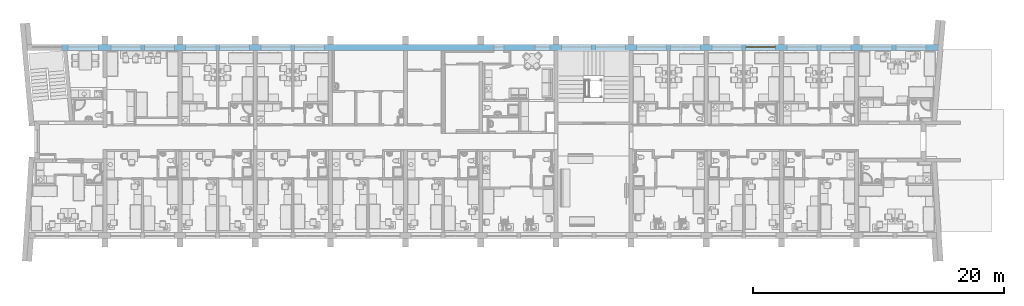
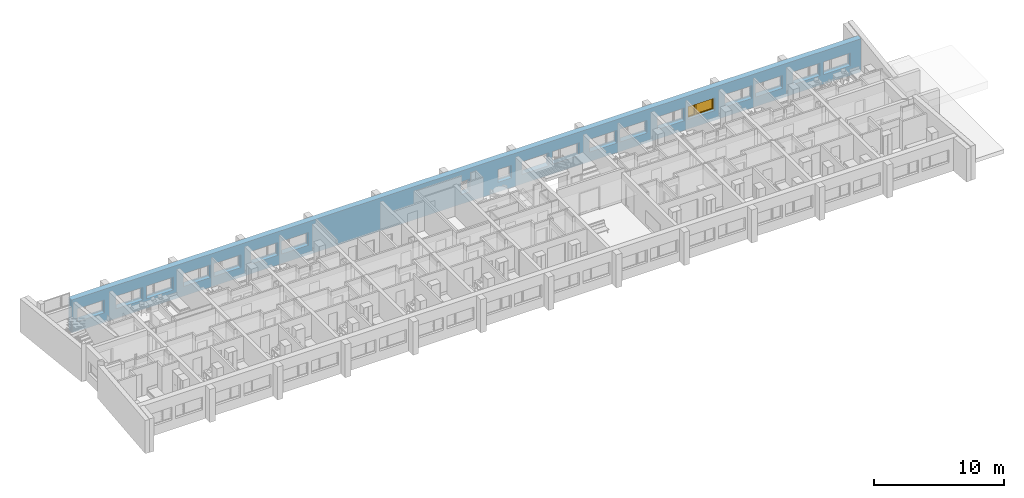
# One storey, part 27 of 172: 1 window, 19 openings, plus 1 element that does not belong to this part.
"""IFC2X3 building model written with IfcOpenShell, lengths in millimetres."""

import ifcopenshell
import ifcopenshell.guid

model = None  # the IFC model being written
_history = None  # IfcOwnerHistory: only IFC2X3 demands one
_inside = {}  # id of a spatial element -> (the spatial element, [elements in it])
_under = {}  # id of a project, library or spatial element -> (it, [spatial elements below it])
_declared = {}  # id of a project -> (the project, [libraries it declares])
_typed = {}  # id of a type object -> (the type object, [elements of that type])
_made_of = {}  # id of a material, layer set ... -> (it, [elements and type objects made of it])


def new_model(schema):
    """Start an empty IFC model of exactly this schema.

    Asked for "IFC4X3", IfcOpenShell would pick the latest addendum, in which some entities
    have other attributes; the version numbers below select the first issue.
    IFC2X3 requires an IfcOwnerHistory on every rooted entity: one is made here for all.
    """
    global model, _history
    if schema == "IFC4X3":
        model = ifcopenshell.file(schema_version=(4, 3, 0, 0))
    else:
        model = ifcopenshell.file(schema=schema)
    _inside.clear()
    _under.clear()
    _declared.clear()
    _typed.clear()
    _made_of.clear()
    _history = None
    if model.schema == "IFC2X3":
        org = make("IfcOrganization", Name="unknown")
        user = make(
            "IfcPersonAndOrganization",
            ThePerson=make("IfcPerson", FamilyName="unknown"),
            TheOrganization=org,
        )
        app = make(
            "IfcApplication",
            ApplicationDeveloper=org,
            Version="unknown",
            ApplicationFullName="unknown",
            ApplicationIdentifier="unknown",
        )
        _history = make(
            "IfcOwnerHistory",
            OwningUser=user,
            OwningApplication=app,
            ChangeAction="ADDED",
            CreationDate=0,
        )
    return model


def make(cls, **values):
    """One entity of the class cls with the attributes given. An attribute that is None is left unset."""
    return model.create_entity(
        cls, **{name: value for name, value in values.items() if value is not None}
    )


def entity(cls, *values):
    """Any entity or typed value of the class cls, its attributes in the order of the schema. None: left unset."""
    e = model.create_entity(cls)
    for i, value in enumerate(values):
        if value is not None:
            e[i] = value
    return e


def rooted(cls, **values):
    """An entity with a GlobalId (a new one), such as an element, a storey or a relation."""
    return make(cls, GlobalId=ifcopenshell.guid.new(), OwnerHistory=_history, **values)


def si_unit(unit_type, name, prefix=None):
    """IfcSIUnit, for example si_unit("LENGTHUNIT", "METRE", prefix="MILLI")."""
    return make("IfcSIUnit", UnitType=unit_type, Prefix=prefix, Name=name)


def converted_unit(unit_type, name, factor, base, dimensions=None, offset=None):
    """IfcConversionBasedUnit, such as the inch: factor (a typed value) times the base unit."""
    return make(
        "IfcConversionBasedUnit"
        if offset is None
        else "IfcConversionBasedUnitWithOffset",
        ConversionOffset=offset,
        Dimensions=None
        if dimensions is None
        else entity("IfcDimensionalExponents", *dimensions),
        UnitType=unit_type,
        Name=name,
        ConversionFactor=make(
            "IfcMeasureWithUnit", ValueComponent=factor, UnitComponent=base
        ),
    )


def money_unit(currency):
    """IfcMonetaryUnit."""
    return make("IfcMonetaryUnit", Currency=currency)


def assignment(units):
    """IfcUnitAssignment: the units of a project."""
    return None if units is None else make("IfcUnitAssignment", Units=units)


def point(xyz):
    """IfcCartesianPoint."""
    return None if xyz is None else make("IfcCartesianPoint", Coordinates=xyz)


def direction(xyz):
    """IfcDirection."""
    return None if xyz is None else make("IfcDirection", DirectionRatios=xyz)


def frame(location, z_axis=None, x_axis=None):
    """IfcAxis2Placement3D, a coordinate frame: its origin and axes. An axis left out is left unset."""
    return make(
        "IfcAxis2Placement3D",
        Location=point(location),
        Axis=direction(z_axis),
        RefDirection=direction(x_axis),
    )


def origin_with_axes():
    """The frame at (0, 0, 0) with the z axis (0, 0, 1) and the x axis (1, 0, 0) written out."""
    return frame((0.0, 0.0, 0.0), z_axis=(0.0, 0.0, 1.0), x_axis=(1.0, 0.0, 0.0))


def place(relative_to, where):
    """IfcLocalPlacement: puts the frame where relative to a parent placement (None: the world)."""
    return make(
        "IfcLocalPlacement", PlacementRelTo=relative_to, RelativePlacement=where
    )


def context(
    kind, dimensions, precision=None, world=None, true_north=None, identifier=None
):
    """IfcGeometricRepresentationContext, for example the 3D "Model" context."""
    return make(
        "IfcGeometricRepresentationContext",
        ContextIdentifier=identifier,
        ContextType=kind,
        CoordinateSpaceDimension=dimensions,
        Precision=precision,
        WorldCoordinateSystem=world,
        TrueNorth=true_north,
    )


def subcontext(parent, identifier, kind, view, scale=None):
    """IfcGeometricRepresentationSubContext, for example "Body" below "Model"."""
    return make(
        "IfcGeometricRepresentationSubContext",
        ContextIdentifier=identifier,
        ContextType=kind,
        ParentContext=parent,
        TargetScale=scale,
        TargetView=view,
    )


def project(units=None, contexts=None):
    """IfcProject with its units and contexts."""
    return rooted(
        "IfcProject",
        Name="project",
        RepresentationContexts=contexts,
        UnitsInContext=assignment(units),
    )


def spatial(cls, under=None, at=None, **own):
    """A site, building, storey or space (cls), placed at a placement, below another one or the project."""
    s = rooted(cls, ObjectPlacement=at, **own)
    if under is not None:
        _under.setdefault(under.id(), (under, []))[1].append(s)
    return s


def polyline(points):
    """IfcPolyline through the points."""
    return make("IfcPolyline", Points=[point(p) for p in points])


def outline(outer, holes=None, kind="AREA"):
    """IfcArbitraryClosedProfileDef: a profile drawn as a closed curve; with holes, ...WithVoids."""
    if holes is None:
        return make("IfcArbitraryClosedProfileDef", ProfileType=kind, OuterCurve=outer)
    return make(
        "IfcArbitraryProfileDefWithVoids",
        ProfileType=kind,
        OuterCurve=outer,
        InnerCurves=holes,
    )


def extrude(swept, where, along, depth):
    """IfcExtrudedAreaSolid: the profile swept, set in the frame where, extruded along a direction by depth."""
    return make(
        "IfcExtrudedAreaSolid",
        SweptArea=swept,
        Position=where,
        ExtrudedDirection=direction(along),
        Depth=depth,
    )


def faces_of(points, faces, orient=None, outer=None):
    """IfcFace entities. A face is a list of loops; a loop is a list of indices into points, from 0.

    orient and outer hold one flag for each loop. By default every Orientation is true, the
    first loop of a face is its IfcFaceOuterBound and the others are IfcFaceBound.
    """
    made = []
    for i, loops in enumerate(faces):
        bounds = []
        for j, loop in enumerate(loops):
            is_outer = j == 0 if outer is None else outer[i][j]
            bounds.append(
                make(
                    "IfcFaceOuterBound" if is_outer else "IfcFaceBound",
                    Bound=make("IfcPolyLoop", Polygon=[points[k] for k in loop]),
                    Orientation=True if orient is None else orient[i][j],
                )
            )
        made.append(make("IfcFace", Bounds=bounds))
    return made


def open_shell(faces, orient=None, outer=None):
    """The faces of one IfcOpenShell. surface_model builds it on its shared points."""
    return ("IfcOpenShell", faces, orient, outer)


def faceted_brep(points, faces, orient=None, outer=None, voids=None):
    """IfcFacetedBrep: a solid bounded by flat faces; with voids (closed shells), ...WithVoids."""
    shared = [point(p) for p in points]
    hull = make("IfcClosedShell", CfsFaces=faces_of(shared, faces, orient, outer))
    if voids is None:
        return make("IfcFacetedBrep", Outer=hull)
    return make(
        "IfcFacetedBrepWithVoids",
        Outer=hull,
        Voids=[
            make(cls, CfsFaces=faces_of(shared, fs, o, b)) for cls, fs, o, b in voids
        ],
    )


def surface_model(cls, points, shells):
    """IfcFaceBasedSurfaceModel or IfcShellBasedSurfaceModel (cls): surfaces that need not close."""
    shared = [point(p) for p in points]
    made = [make(c, CfsFaces=faces_of(shared, fs, o, b)) for c, fs, o, b in shells]
    if cls == "IfcFaceBasedSurfaceModel":
        return make(cls, FbsmFaces=made)
    return make(cls, SbsmBoundary=made)


def shape(context_of_items, identifier, shape_type, items):
    """IfcShapeRepresentation: the items that make up one representation, for example the "Body"."""
    return make(
        "IfcShapeRepresentation",
        ContextOfItems=context_of_items,
        RepresentationIdentifier=identifier,
        RepresentationType=shape_type,
        Items=items,
    )


def source(mapping_origin, context_of_items, identifier, shape_type, items):
    """IfcRepresentationMap: a shape defined once, which mapped items show again and again."""
    return make(
        "IfcRepresentationMap",
        MappingOrigin=mapping_origin,
        MappedRepresentation=shape(context_of_items, identifier, shape_type, items),
    )


def transform(
    local_origin,
    x_axis=None,
    y_axis=None,
    z_axis=None,
    scale=None,
    scale2=None,
    scale3=None,
    uniform=True,
):
    """IfcCartesianTransformationOperator3D, or its non-uniform kind. x_axis, y_axis, z_axis: its Axis1, 2, 3."""
    if uniform:
        return make(
            "IfcCartesianTransformationOperator3D",
            Axis1=direction(x_axis),
            Axis2=direction(y_axis),
            LocalOrigin=point(local_origin),
            Scale=scale,
            Axis3=direction(z_axis),
        )
    return make(
        "IfcCartesianTransformationOperator3DnonUniform",
        Axis1=direction(x_axis),
        Axis2=direction(y_axis),
        LocalOrigin=point(local_origin),
        Scale=scale,
        Axis3=direction(z_axis),
        Scale2=scale2,
        Scale3=scale3,
    )


def mapped(mapping_source, mapping_target):
    """IfcMappedItem: shows the shape of a source again, moved by a transform."""
    return make(
        "IfcMappedItem", MappingSource=mapping_source, MappingTarget=mapping_target
    )


def material(Name=None, Category=None):
    """IfcMaterial."""
    return make("IfcMaterial", Name=Name, Category=Category)


def material_list(materials):
    """IfcMaterialList."""
    return make("IfcMaterialList", Materials=materials)


def layer(
    of_material, thickness, ventilated=None, Name=None, Category=None, Priority=None
):
    """IfcMaterialLayer: one layer of a wall or slab, of a material (None: an air gap)."""
    return make(
        "IfcMaterialLayer",
        Material=of_material,
        LayerThickness=thickness,
        IsVentilated=ventilated,
        Name=Name,
        Category=Category,
        Priority=Priority,
    )


def layer_set(layers, Name=None):
    """IfcMaterialLayerSet."""
    return make("IfcMaterialLayerSet", MaterialLayers=layers, LayerSetName=Name)


def layer_usage(for_layer_set, set_direction, sense, offset, extent=None):
    """IfcMaterialLayerSetUsage: how a layer set lies in its element."""
    return make(
        "IfcMaterialLayerSetUsage",
        ForLayerSet=for_layer_set,
        LayerSetDirection=set_direction,
        DirectionSense=sense,
        OffsetFromReferenceLine=offset,
        ReferenceExtent=extent,
    )


def made_of(thing, what):
    """Note that an element or type object is made of a material, layer set ...; save() writes the relation."""
    if what is not None:
        _made_of.setdefault(what.id(), (what, []))[1].append(thing)
    return thing


def type_object(cls, material=None, **own):
    """A type object (cls), such as IfcWallType, which elements share."""
    return made_of(rooted(cls, **own), material)


def element(
    cls,
    number,
    at=None,
    inside=None,
    cuts=None,
    type_object=None,
    material=None,
    context=None,
    identifier="Body",
    shape_type=None,
    held_by="IfcProductDefinitionShape",
    body=None,
    shapes=None,
    **own,
):
    """One element of the class cls, such as IfcWall. Its Tag is "e" and its number.

    at: its placement. inside: the storey or other place that contains it. cuts: it is an
    opening in that element (IfcRelVoidsElement). A single representation is given by context,
    identifier, shape_type and body (its items); several are given by shapes. held_by: the class
    of the entity that holds the representations. save() writes the other relations.
    """
    e = rooted(cls, Tag="e%d" % number, ObjectPlacement=at, **own)
    if body is not None:
        shapes = [shape(context, identifier, shape_type, body)]
    if shapes is not None:
        e.Representation = make(held_by, Representations=shapes)
    if inside is not None:
        _inside.setdefault(inside.id(), (inside, []))[1].append(e)
    if cuts is not None:
        rooted(
            "IfcRelVoidsElement", RelatingBuildingElement=cuts, RelatedOpeningElement=e
        )
    if type_object is not None:
        _typed.setdefault(type_object.id(), (type_object, []))[1].append(e)
    return made_of(e, material)


def fill(opening, filler):
    """IfcRelFillsElement: the door or window that sits in an opening."""
    return rooted(
        "IfcRelFillsElement",
        RelatingOpeningElement=opening,
        RelatedBuildingElement=filler,
    )


def aggregate(whole, parts):
    """IfcRelAggregates: a whole, such as a stair, and the parts it consists of."""
    return rooted("IfcRelAggregates", RelatingObject=whole, RelatedObjects=parts)


def save(model, path):
    """Write the relations noted so far, then the file.

    IfcRelAggregates (storeys below a building ...), IfcRelContainedInSpatialStructure (elements
    in a storey), IfcRelDefinesByType, IfcRelAssociatesMaterial and IfcRelDeclares: one each for
    every whole, place, type object, material and project.
    """
    for whole, parts in _under.values():
        aggregate(whole, parts)
    for where, things in _inside.values():
        rooted(
            "IfcRelContainedInSpatialStructure",
            RelatedElements=things,
            RelatingStructure=where,
        )
    for kind, things in _typed.values():
        rooted("IfcRelDefinesByType", RelatedObjects=things, RelatingType=kind)
    for what, things in _made_of.values():
        rooted("IfcRelAssociatesMaterial", RelatedObjects=things, RelatingMaterial=what)
    for by, libraries in _declared.values():
        rooted("IfcRelDeclares", RelatingContext=by, RelatedDefinitions=libraries)
    model.write(path)


model = new_model("IFC2X3")

# Units and contexts
model_context = context("Model", 3, precision=1e-05, world=origin_with_axes(), true_north=direction((0.0, 1.0)))
body_context = subcontext(model_context, "Body", "Model", "MODEL_VIEW")
ifc_project = project(units=[si_unit("LENGTHUNIT", "METRE", prefix="MILLI"), si_unit("AREAUNIT", "SQUARE_METRE"), si_unit("VOLUMEUNIT", "CUBIC_METRE"), converted_unit("PLANEANGLEUNIT", "DEGREE", entity("IfcPlaneAngleMeasure", 0.0174532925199), si_unit("PLANEANGLEUNIT", "RADIAN"), dimensions=[0, 0, 0, 0, 0, 0, 0]), si_unit("SOLIDANGLEUNIT", "STERADIAN"), money_unit("USD"), converted_unit("TIMEUNIT", "Year", entity("IfcTimeMeasure", 31556926.0), si_unit("TIMEUNIT", "SECOND"), dimensions=[0, 0, 0, 0, 0, 0, 0]), si_unit("MASSUNIT", "GRAM"), si_unit("THERMODYNAMICTEMPERATUREUNIT", "DEGREE_CELSIUS"), si_unit("LUMINOUSINTENSITYUNIT", "LUMEN")], contexts=[model_context])

# Site, building, storey
site_placement = place(None, origin_with_axes())
site = spatial("IfcSite", under=ifc_project, at=site_placement, Name="Site", CompositionType="ELEMENT")
building_placement = place(site_placement, origin_with_axes())
building = spatial("IfcBuilding", under=site, at=building_placement, Name="Building", CompositionType="ELEMENT")
storey_placement = place(building_placement, frame((0.0, 0.0, 3200.0), z_axis=(0.0, 0.0, 1.0), x_axis=(1.0, 0.0, 0.0)))
storey = spatial("IfcBuildingStorey", under=building, at=storey_placement, Name="3KORRUS", CompositionType="ELEMENT", Elevation=3200.0)

# Wall, openings, window
ifc_material_1 = material(Name="Olemasolevad seinad tellis, uus viimistlus")
ifc_layer = layer(ifc_material_1, 500.0, ventilated="UNKNOWN")
ifc_layer_set = layer_set([ifc_layer], Name="Olemasolevad seinad tellis, uus viimistlus 500")
ifc_layer_usage = layer_usage(ifc_layer_set, "AXIS2", "POSITIVE", -100.0)
wall_type = type_object("IfcWallType", Name="Olemasolevad seinad tellis, uus viimistlus 500", PredefinedType="NOTDEFINED")
wall_placement = place(storey_placement, frame((-51569.3388124, -5039.6041088, 0.0), z_axis=(0.0, 0.0, 1.0), x_axis=(1.0, 0.0, 0.0)))
wall = element("IfcWallStandardCase", 1, at=wall_placement, inside=storey, type_object=wall_type, material=ifc_layer_usage, Name="VS1", ObjectType="VS1", context=body_context, shape_type="SweptSolid", body=[
    extrude(outline(polyline([(0.0, -100.0), (69914.7195482, -100.0), (69959.6995146, 400.0), (0.0, 400.0), (0.0, -100.0)])), origin_with_axes(), (0.0, 0.0, 1.0), 3100.0),
])
opening_1_placement = place(wall_placement, frame((34879.0421091, 0.0, 900.0), z_axis=(0.0, 0.0, 1.0), x_axis=(1.0, 0.0, 0.0)))
element("IfcOpeningElement", 2, at=opening_1_placement, cuts=wall, Name="WD - 001", context=body_context, shape_type="SweptSolid", body=[
    extrude(outline(polyline([(-400.0, 1200.0), (-400.0, 0.0), (400.0, 0.0), (400.0, 1200.0), (-400.0, 1200.0)])), frame((0.0, 200.0, 0.0), z_axis=(0.0, -1.0, 0.0), x_axis=(1.0, 0.0, 0.0)), (0.0, 0.0, 1.0), 800.0),
    extrude(outline(polyline([(-400.0, 0.0), (-400.0, -1200.0), (400.0, -1200.0), (400.0, 0.0), (-400.0, 0.0)])), frame((0.0, 200.0, 0.0), z_axis=(0.0, 1.0, 0.0), x_axis=(1.0, 0.0, 0.0)), (0.0, 0.0, 1.0), 700.0),
])
opening_2_placement = place(wall_placement, frame((38352.6323068, 0.0, 900.0), z_axis=(0.0, 0.0, 1.0), x_axis=(1.0, 0.0, 0.0)))
element("IfcOpeningElement", 3, at=opening_2_placement, cuts=wall, Name="A3", context=body_context, shape_type="SweptSolid", body=[
    extrude(outline(polyline([(-600.0, 1200.0), (-600.0, 0.0), (600.0, 0.0), (600.0, 1200.0), (-600.0, 1200.0)])), frame((0.0, 200.0, 0.0), z_axis=(0.0, -1.0, 0.0), x_axis=(1.0, 0.0, 0.0)), (0.0, 0.0, 1.0), 800.0),
    extrude(outline(polyline([(-600.0, 0.0), (-600.0, -1200.0), (600.0, -1200.0), (600.0, 0.0), (-600.0, 0.0)])), frame((0.0, 200.0, 0.0), z_axis=(0.0, 1.0, 0.0), x_axis=(1.0, 0.0, 0.0)), (0.0, 0.0, 1.0), 700.0),
])
opening_3_placement = place(wall_placement, frame((1700.0, 0.0, 900.0), z_axis=(0.0, 0.0, 1.0), x_axis=(1.0, 0.0, 0.0)))
element("IfcOpeningElement", 4, at=opening_3_placement, cuts=wall, Name="A1", context=body_context, shape_type="SweptSolid", body=[
    extrude(outline(polyline([(1200.0, 1200.0), (-1200.0, 1200.0), (-1200.0, 0.0), (1200.0, 0.0), (1200.0, 1200.0)])), frame((0.0, 200.0, 0.0), z_axis=(0.0, -1.0, 0.0), x_axis=(1.0, 0.0, 0.0)), (0.0, 0.0, 1.0), 800.0),
    extrude(outline(polyline([(1200.0, 0.0), (-1200.0, 0.0), (-1200.0, -1200.0), (1200.0, -1200.0), (1200.0, 0.0)])), frame((0.0, 200.0, 0.0), z_axis=(0.0, 1.0, 0.0), x_axis=(1.0, 0.0, 0.0)), (0.0, 0.0, 1.0), 700.0),
])
opening_4_placement = place(wall_placement, frame((7795.91085613, 0.0, 900.0), z_axis=(0.0, 0.0, 1.0), x_axis=(1.0, 0.0, 0.0)))
element("IfcOpeningElement", 5, at=opening_4_placement, cuts=wall, Name="A1", context=body_context, shape_type="SweptSolid", body=[
    extrude(outline(polyline([(1200.0, 1200.0), (-1200.0, 1200.0), (-1200.0, 0.0), (1200.0, 0.0), (1200.0, 1200.0)])), frame((0.0, 200.0, 0.0), z_axis=(0.0, -1.0, 0.0), x_axis=(1.0, 0.0, 0.0)), (0.0, 0.0, 1.0), 800.0),
    extrude(outline(polyline([(1200.0, 0.0), (-1200.0, 0.0), (-1200.0, -1200.0), (1200.0, -1200.0), (1200.0, 0.0)])), frame((0.0, 200.0, 0.0), z_axis=(0.0, 1.0, 0.0), x_axis=(1.0, 0.0, 0.0)), (0.0, 0.0, 1.0), 700.0),
])
opening_5_placement = place(wall_placement, frame((5095.91085613, 0.0, 900.0), z_axis=(0.0, 0.0, 1.0), x_axis=(1.0, 0.0, 0.0)))
element("IfcOpeningElement", 6, at=opening_5_placement, cuts=wall, Name="A2", context=body_context, shape_type="SweptSolid", body=[
    extrude(outline(polyline([(-1200.0, 1200.0), (-1200.0, 0.0), (1200.0, 0.0), (1200.0, 1200.0), (-1200.0, 1200.0)])), frame((0.0, 200.0, 0.0), z_axis=(0.0, -1.0, 0.0), x_axis=(1.0, 0.0, 0.0)), (0.0, 0.0, 1.0), 800.0),
    extrude(outline(polyline([(-1200.0, 0.0), (-1200.0, -1200.0), (1200.0, -1200.0), (1200.0, 0.0), (-1200.0, 0.0)])), frame((0.0, 200.0, 0.0), z_axis=(0.0, 1.0, 0.0), x_axis=(1.0, 0.0, 0.0)), (0.0, 0.0, 1.0), 700.0),
])
opening_6_placement = place(wall_placement, frame((13779.0421091, 0.0, 900.0), z_axis=(0.0, 0.0, 1.0), x_axis=(1.0, 0.0, 0.0)))
element("IfcOpeningElement", 7, at=opening_6_placement, cuts=wall, Name="A1", context=body_context, shape_type="SweptSolid", body=[
    extrude(outline(polyline([(1200.0, 1200.0), (-1200.0, 1200.0), (-1200.0, 0.0), (1200.0, 0.0), (1200.0, 1200.0)])), frame((0.0, 200.0, 0.0), z_axis=(0.0, -1.0, 0.0), x_axis=(1.0, 0.0, 0.0)), (0.0, 0.0, 1.0), 800.0),
    extrude(outline(polyline([(1200.0, 0.0), (-1200.0, 0.0), (-1200.0, -1200.0), (1200.0, -1200.0), (1200.0, 0.0)])), frame((0.0, 200.0, 0.0), z_axis=(0.0, 1.0, 0.0), x_axis=(1.0, 0.0, 0.0)), (0.0, 0.0, 1.0), 700.0),
])
opening_7_placement = place(wall_placement, frame((11079.0421091, 0.0, 900.0), z_axis=(0.0, 0.0, 1.0), x_axis=(1.0, 0.0, 0.0)))
element("IfcOpeningElement", 8, at=opening_7_placement, cuts=wall, Name="A2", context=body_context, shape_type="SweptSolid", body=[
    extrude(outline(polyline([(-1200.0, 1200.0), (-1200.0, 0.0), (1200.0, 0.0), (1200.0, 1200.0), (-1200.0, 1200.0)])), frame((0.0, 200.0, 0.0), z_axis=(0.0, -1.0, 0.0), x_axis=(1.0, 0.0, 0.0)), (0.0, 0.0, 1.0), 800.0),
    extrude(outline(polyline([(-1200.0, 0.0), (-1200.0, -1200.0), (1200.0, -1200.0), (1200.0, 0.0), (-1200.0, 0.0)])), frame((0.0, 200.0, 0.0), z_axis=(0.0, 1.0, 0.0), x_axis=(1.0, 0.0, 0.0)), (0.0, 0.0, 1.0), 700.0),
])
opening_8_placement = place(wall_placement, frame((43769.0421091, 0.0, 900.0), z_axis=(0.0, 0.0, 1.0), x_axis=(1.0, 0.0, 0.0)))
element("IfcOpeningElement", 9, at=opening_8_placement, cuts=wall, Name="A1", context=body_context, shape_type="SweptSolid", body=[
    extrude(outline(polyline([(1200.0, 1200.0), (-1200.0, 1200.0), (-1200.0, 0.0), (1200.0, 0.0), (1200.0, 1200.0)])), frame((0.0, 200.0, 0.0), z_axis=(0.0, -1.0, 0.0), x_axis=(1.0, 0.0, 0.0)), (0.0, 0.0, 1.0), 800.0),
    extrude(outline(polyline([(1200.0, 0.0), (-1200.0, 0.0), (-1200.0, -1200.0), (1200.0, -1200.0), (1200.0, 0.0)])), frame((0.0, 200.0, 0.0), z_axis=(0.0, 1.0, 0.0), x_axis=(1.0, 0.0, 0.0)), (0.0, 0.0, 1.0), 700.0),
])
opening_9_placement = place(wall_placement, frame((41069.0421091, 0.0, 900.0), z_axis=(0.0, 0.0, 1.0), x_axis=(1.0, 0.0, 0.0)))
element("IfcOpeningElement", 10, at=opening_9_placement, cuts=wall, Name="A2", context=body_context, shape_type="SweptSolid", body=[
    extrude(outline(polyline([(-1200.0, 1200.0), (-1200.0, 0.0), (1200.0, 0.0), (1200.0, 1200.0), (-1200.0, 1200.0)])), frame((0.0, 200.0, 0.0), z_axis=(0.0, -1.0, 0.0), x_axis=(1.0, 0.0, 0.0)), (0.0, 0.0, 1.0), 800.0),
    extrude(outline(polyline([(-1200.0, 0.0), (-1200.0, -1200.0), (1200.0, -1200.0), (1200.0, 0.0), (-1200.0, 0.0)])), frame((0.0, 200.0, 0.0), z_axis=(0.0, 1.0, 0.0), x_axis=(1.0, 0.0, 0.0)), (0.0, 0.0, 1.0), 700.0),
])
opening_10_placement = place(wall_placement, frame((49769.0421091, 0.0, 900.0), z_axis=(0.0, 0.0, 1.0), x_axis=(1.0, 0.0, 0.0)))
element("IfcOpeningElement", 11, at=opening_10_placement, cuts=wall, Name="A1", context=body_context, shape_type="SweptSolid", body=[
    extrude(outline(polyline([(1200.0, 1200.0), (-1200.0, 1200.0), (-1200.0, 0.0), (1200.0, 0.0), (1200.0, 1200.0)])), frame((0.0, 200.0, 0.0), z_axis=(0.0, -1.0, 0.0), x_axis=(1.0, 0.0, 0.0)), (0.0, 0.0, 1.0), 800.0),
    extrude(outline(polyline([(1200.0, 0.0), (-1200.0, 0.0), (-1200.0, -1200.0), (1200.0, -1200.0), (1200.0, 0.0)])), frame((0.0, 200.0, 0.0), z_axis=(0.0, 1.0, 0.0), x_axis=(1.0, 0.0, 0.0)), (0.0, 0.0, 1.0), 700.0),
])
opening_11_placement = place(wall_placement, frame((47069.0421091, 0.0, 900.0), z_axis=(0.0, 0.0, 1.0), x_axis=(1.0, 0.0, 0.0)))
element("IfcOpeningElement", 12, at=opening_11_placement, cuts=wall, Name="A2", context=body_context, shape_type="SweptSolid", body=[
    extrude(outline(polyline([(-1200.0, 1200.0), (-1200.0, 0.0), (1200.0, 0.0), (1200.0, 1200.0), (-1200.0, 1200.0)])), frame((0.0, 200.0, 0.0), z_axis=(0.0, -1.0, 0.0), x_axis=(1.0, 0.0, 0.0)), (0.0, 0.0, 1.0), 800.0),
    extrude(outline(polyline([(-1200.0, 0.0), (-1200.0, -1200.0), (1200.0, -1200.0), (1200.0, 0.0), (-1200.0, 0.0)])), frame((0.0, 200.0, 0.0), z_axis=(0.0, 1.0, 0.0), x_axis=(1.0, 0.0, 0.0)), (0.0, 0.0, 1.0), 700.0),
])
opening_12_placement = place(wall_placement, frame((55769.0421091, 0.0, 900.0), z_axis=(0.0, 0.0, 1.0), x_axis=(1.0, 0.0, 0.0)))
opening_12 = element("IfcOpeningElement", 13, at=opening_12_placement, cuts=wall, Name="A1", context=body_context, shape_type="SweptSolid", body=[
    extrude(outline(polyline([(1200.0, 1200.0), (-1200.0, 1200.0), (-1200.0, 0.0), (1200.0, 0.0), (1200.0, 1200.0)])), frame((0.0, 200.0, 0.0), z_axis=(0.0, -1.0, 0.0), x_axis=(1.0, 0.0, 0.0)), (0.0, 0.0, 1.0), 800.0),
    extrude(outline(polyline([(1200.0, 0.0), (-1200.0, 0.0), (-1200.0, -1200.0), (1200.0, -1200.0), (1200.0, 0.0)])), frame((0.0, 200.0, 0.0), z_axis=(0.0, 1.0, 0.0), x_axis=(1.0, 0.0, 0.0)), (0.0, 0.0, 1.0), 700.0),
])
opening_13_placement = place(wall_placement, frame((53069.0421091, 0.0, 900.0), z_axis=(0.0, 0.0, 1.0), x_axis=(1.0, 0.0, 0.0)))
element("IfcOpeningElement", 14, at=opening_13_placement, cuts=wall, Name="A2", context=body_context, shape_type="SweptSolid", body=[
    extrude(outline(polyline([(-1200.0, 1200.0), (-1200.0, 0.0), (1200.0, 0.0), (1200.0, 1200.0), (-1200.0, 1200.0)])), frame((0.0, 200.0, 0.0), z_axis=(0.0, -1.0, 0.0), x_axis=(1.0, 0.0, 0.0)), (0.0, 0.0, 1.0), 800.0),
    extrude(outline(polyline([(-1200.0, 0.0), (-1200.0, -1200.0), (1200.0, -1200.0), (1200.0, 0.0), (-1200.0, 0.0)])), frame((0.0, 200.0, 0.0), z_axis=(0.0, 1.0, 0.0), x_axis=(1.0, 0.0, 0.0)), (0.0, 0.0, 1.0), 700.0),
])
opening_14_placement = place(wall_placement, frame((61769.0421091, 0.0, 900.0), z_axis=(0.0, 0.0, 1.0), x_axis=(1.0, 0.0, 0.0)))
element("IfcOpeningElement", 15, at=opening_14_placement, cuts=wall, Name="A1", context=body_context, shape_type="SweptSolid", body=[
    extrude(outline(polyline([(1200.0, 1200.0), (-1200.0, 1200.0), (-1200.0, 0.0), (1200.0, 0.0), (1200.0, 1200.0)])), frame((0.0, 200.0, 0.0), z_axis=(0.0, -1.0, 0.0), x_axis=(1.0, 0.0, 0.0)), (0.0, 0.0, 1.0), 800.0),
    extrude(outline(polyline([(1200.0, 0.0), (-1200.0, 0.0), (-1200.0, -1200.0), (1200.0, -1200.0), (1200.0, 0.0)])), frame((0.0, 200.0, 0.0), z_axis=(0.0, 1.0, 0.0), x_axis=(1.0, 0.0, 0.0)), (0.0, 0.0, 1.0), 700.0),
])
opening_15_placement = place(wall_placement, frame((59069.0421091, 0.0, 900.0), z_axis=(0.0, 0.0, 1.0), x_axis=(1.0, 0.0, 0.0)))
element("IfcOpeningElement", 16, at=opening_15_placement, cuts=wall, Name="A2", context=body_context, shape_type="SweptSolid", body=[
    extrude(outline(polyline([(-1200.0, 1200.0), (-1200.0, 0.0), (1200.0, 0.0), (1200.0, 1200.0), (-1200.0, 1200.0)])), frame((0.0, 200.0, 0.0), z_axis=(0.0, -1.0, 0.0), x_axis=(1.0, 0.0, 0.0)), (0.0, 0.0, 1.0), 800.0),
    extrude(outline(polyline([(-1200.0, 0.0), (-1200.0, -1200.0), (1200.0, -1200.0), (1200.0, 0.0), (-1200.0, 0.0)])), frame((0.0, 200.0, 0.0), z_axis=(0.0, 1.0, 0.0), x_axis=(1.0, 0.0, 0.0)), (0.0, 0.0, 1.0), 700.0),
])
opening_16_placement = place(wall_placement, frame((67773.3244043, 0.0, 900.0), z_axis=(0.0, 0.0, 1.0), x_axis=(1.0, 0.0, 0.0)))
element("IfcOpeningElement", 17, at=opening_16_placement, cuts=wall, Name="A1", context=body_context, shape_type="SweptSolid", body=[
    extrude(outline(polyline([(1200.0, 1200.0), (-1200.0, 1200.0), (-1200.0, 0.0), (1200.0, 0.0), (1200.0, 1200.0)])), frame((0.0, 200.0, 0.0), z_axis=(0.0, -1.0, 0.0), x_axis=(1.0, 0.0, 0.0)), (0.0, 0.0, 1.0), 800.0),
    extrude(outline(polyline([(1200.0, 0.0), (-1200.0, 0.0), (-1200.0, -1200.0), (1200.0, -1200.0), (1200.0, 0.0)])), frame((0.0, 200.0, 0.0), z_axis=(0.0, 1.0, 0.0), x_axis=(1.0, 0.0, 0.0)), (0.0, 0.0, 1.0), 700.0),
])
opening_17_placement = place(wall_placement, frame((65073.3244043, 0.0, 900.0), z_axis=(0.0, 0.0, 1.0), x_axis=(1.0, 0.0, 0.0)))
element("IfcOpeningElement", 18, at=opening_17_placement, cuts=wall, Name="A2", context=body_context, shape_type="SweptSolid", body=[
    extrude(outline(polyline([(-1200.0, 1200.0), (-1200.0, 0.0), (1200.0, 0.0), (1200.0, 1200.0), (-1200.0, 1200.0)])), frame((0.0, 200.0, 0.0), z_axis=(0.0, -1.0, 0.0), x_axis=(1.0, 0.0, 0.0)), (0.0, 0.0, 1.0), 800.0),
    extrude(outline(polyline([(-1200.0, 0.0), (-1200.0, -1200.0), (1200.0, -1200.0), (1200.0, 0.0), (-1200.0, 0.0)])), frame((0.0, 200.0, 0.0), z_axis=(0.0, 1.0, 0.0), x_axis=(1.0, 0.0, 0.0)), (0.0, 0.0, 1.0), 700.0),
])
opening_18_placement = place(wall_placement, frame((19767.4765851, 0.0, 900.0), z_axis=(0.0, 0.0, 1.0), x_axis=(1.0, 0.0, 0.0)))
element("IfcOpeningElement", 19, at=opening_18_placement, cuts=wall, Name="A1", context=body_context, shape_type="SweptSolid", body=[
    extrude(outline(polyline([(1200.0, 1200.0), (-1200.0, 1200.0), (-1200.0, 0.0), (1200.0, 0.0), (1200.0, 1200.0)])), frame((0.0, 200.0, 0.0), z_axis=(0.0, -1.0, 0.0), x_axis=(1.0, 0.0, 0.0)), (0.0, 0.0, 1.0), 800.0),
    extrude(outline(polyline([(1200.0, 0.0), (-1200.0, 0.0), (-1200.0, -1200.0), (1200.0, -1200.0), (1200.0, 0.0)])), frame((0.0, 200.0, 0.0), z_axis=(0.0, 1.0, 0.0), x_axis=(1.0, 0.0, 0.0)), (0.0, 0.0, 1.0), 700.0),
])
opening_19_placement = place(wall_placement, frame((17067.4765851, 0.0, 900.0), z_axis=(0.0, 0.0, 1.0), x_axis=(1.0, 0.0, 0.0)))
element("IfcOpeningElement", 20, at=opening_19_placement, cuts=wall, Name="A2", context=body_context, shape_type="SweptSolid", body=[
    extrude(outline(polyline([(-1200.0, 1200.0), (-1200.0, 0.0), (1200.0, 0.0), (1200.0, 1200.0), (-1200.0, 1200.0)])), frame((0.0, 200.0, 0.0), z_axis=(0.0, -1.0, 0.0), x_axis=(1.0, 0.0, 0.0)), (0.0, 0.0, 1.0), 800.0),
    extrude(outline(polyline([(-1200.0, 0.0), (-1200.0, -1200.0), (1200.0, -1200.0), (1200.0, 0.0), (-1200.0, 0.0)])), frame((0.0, 200.0, 0.0), z_axis=(0.0, 1.0, 0.0), x_axis=(1.0, 0.0, 0.0)), (0.0, 0.0, 1.0), 700.0),
])
ifc_material_2 = material(Name="Background")
ifc_material_list = material_list([ifc_material_2])
window_style = type_object("IfcWindowStyle", Name="Double Window 19", ConstructionType="NOTDEFINED", OperationType="DOUBLE_PANEL_VERTICAL", ParameterTakesPrecedence=False, Sizeable=False)
shared_shape = source(origin_with_axes(), body_context, "Body", "SurfaceModel", [
    faceted_brep([(1175.0, -200.0, 1150.0), (1175.0, -225.0, 1150.0), (1150.0, -225.0, 1150.0), (1150.0, -250.0, 1150.0), (1200.0, -250.0, 1150.0), (1200.0, -200.0, 1150.0), (1175.0, -200.0, 50.0), (1175.0, -225.0, 50.0), (1150.0, -225.0, 50.0), (1150.0, -250.0, 50.0), (1200.0, -250.0, 50.0), (1200.0, -200.0, 50.0)], [[[0, 1, 2, 3, 4, 5]], [[1, 0, 6, 7]], [[8, 2, 1, 7]], [[2, 8, 9, 3]], [[4, 3, 9, 10]], [[5, 4, 10, 11]], [[6, 0, 5, 11]], [[7, 6, 11, 10, 9, 8]]]),
    faceted_brep([(-1150.0, -225.0, 1150.0), (-1175.0, -225.0, 1150.0), (-1175.0, -200.0, 1150.0), (-1200.0, -200.0, 1150.0), (-1200.0, -250.0, 1150.0), (-1150.0, -250.0, 1150.0), (-1150.0, -225.0, 50.0), (-1175.0, -225.0, 50.0), (-1175.0, -200.0, 50.0), (-1200.0, -200.0, 50.0), (-1200.0, -250.0, 50.0), (-1150.0, -250.0, 50.0)], [[[0, 1, 2, 3, 4, 5]], [[1, 0, 6, 7]], [[8, 2, 1, 7]], [[2, 8, 9, 3]], [[9, 10, 4, 3]], [[10, 11, 5, 4]], [[6, 0, 5, 11]], [[7, 6, 11, 10, 9, 8]]]),
    faceted_brep([(-350.0, -225.0, 1150.0), (-375.0, -225.0, 1150.0), (-375.0, -200.0, 1150.0), (-425.0, -200.0, 1150.0), (-425.0, -225.0, 1150.0), (-450.0, -225.0, 1150.0), (-450.0, -250.0, 1150.0), (-350.0, -250.0, 1150.0), (-350.0, -225.0, 50.0), (-375.0, -225.0, 50.0), (-375.0, -200.0, 50.0), (-425.0, -200.0, 50.0), (-425.0, -225.0, 50.0), (-450.0, -225.0, 50.0), (-450.0, -250.0, 50.0), (-350.0, -250.0, 50.0)], [[[0, 1, 2, 3, 4, 5, 6, 7]], [[1, 0, 8, 9]], [[10, 2, 1, 9]], [[2, 10, 11, 3]], [[4, 3, 11, 12]], [[13, 5, 4, 12]], [[5, 13, 14, 6]], [[14, 15, 7, 6]], [[8, 0, 7, 15]], [[9, 8, 15, 14, 13, 12, 11, 10]]]),
    faceted_brep([(-350.0, -225.0, 50.0), (-375.0, -225.0, 50.0), (-375.0, -200.0, 50.0), (-425.0, -200.0, 50.0), (-425.0, -225.0, 50.0), (-450.0, -225.0, 50.0), (-450.0, -250.0, 50.0), (-350.0, -250.0, 50.0), (1150.0, -225.0, 50.0), (1175.0, -225.0, 50.0), (1175.0, -225.0, 25.0), (-375.0, -225.0, 25.0), (-375.0, -200.0, 25.0), (1175.0, -200.0, 25.0), (1175.0, -200.0, 50.0), (1200.0, -200.0, 50.0), (1200.0, -200.0, 0.0), (-1200.0, -200.0, 0.0), (-1200.0, -200.0, 50.0), (-1175.0, -200.0, 50.0), (-1175.0, -200.0, 25.0), (-425.0, -200.0, 25.0), (-425.0, -225.0, 25.0), (-1175.0, -225.0, 50.0), (-1150.0, -225.0, 50.0), (-1175.0, -225.0, 25.0), (-1150.0, -250.0, 50.0), (1200.0, -250.0, 50.0), (1150.0, -250.0, 50.0), (-1200.0, -250.0, 50.0), (-1200.0, -250.0, 0.0), (1200.0, -250.0, 0.0)], [[[0, 1, 2, 3, 4, 5, 6, 7]], [[1, 0, 8, 9, 10, 11]], [[12, 2, 1, 11]], [[13, 14, 15, 16, 17, 18, 19, 20, 21, 3, 2, 12]], [[4, 3, 21, 22]], [[23, 24, 5, 4, 22, 25]], [[5, 24, 26, 6]], [[27, 28, 7, 6, 26, 29, 30, 31]], [[8, 0, 7, 28]], [[9, 8, 28, 27, 15, 14]], [[9, 14, 13, 10]], [[13, 12, 11, 10]], [[15, 27, 31, 16]], [[16, 31, 30, 17]], [[17, 30, 29, 18]], [[24, 23, 19, 18, 29, 26]], [[20, 19, 23, 25]], [[21, 20, 25, 22]]]),
    faceted_brep([(1175.0, -200.0, 1150.0), (1175.0, -200.0, 1175.0), (-375.0, -200.0, 1175.0), (-375.0, -200.0, 1150.0), (-425.0, -200.0, 1150.0), (-425.0, -200.0, 1175.0), (-1175.0, -200.0, 1175.0), (-1175.0, -200.0, 1150.0), (-1200.0, -200.0, 1150.0), (-1200.0, -200.0, 1200.0), (1200.0, -200.0, 1200.0), (1200.0, -200.0, 1150.0), (1175.0, -225.0, 1150.0), (1175.0, -225.0, 1175.0), (-375.0, -225.0, 1175.0), (-375.0, -225.0, 1150.0), (-350.0, -225.0, 1150.0), (-350.0, -250.0, 1150.0), (-450.0, -250.0, 1150.0), (-450.0, -225.0, 1150.0), (-425.0, -225.0, 1150.0), (-425.0, -225.0, 1175.0), (-1175.0, -225.0, 1175.0), (-1175.0, -225.0, 1150.0), (-1150.0, -225.0, 1150.0), (-1150.0, -250.0, 1150.0), (-1200.0, -250.0, 1150.0), (-1200.0, -250.0, 1200.0), (1200.0, -250.0, 1200.0), (1200.0, -250.0, 1150.0), (1150.0, -250.0, 1150.0), (1150.0, -225.0, 1150.0)], [[[0, 1, 2, 3, 4, 5, 6, 7, 8, 9, 10, 11]], [[1, 0, 12, 13]], [[2, 1, 13, 14]], [[3, 2, 14, 15]], [[15, 16, 17, 18, 19, 20, 4, 3]], [[5, 4, 20, 21]], [[6, 5, 21, 22]], [[7, 6, 22, 23]], [[23, 24, 25, 26, 8, 7]], [[8, 26, 27, 9]], [[9, 27, 28, 10]], [[10, 28, 29, 11]], [[12, 0, 11, 29, 30, 31]], [[16, 15, 14, 13, 12, 31]], [[16, 31, 30, 17]], [[18, 17, 30, 29, 28, 27, 26, 25]], [[24, 19, 18, 25]], [[24, 23, 22, 21, 20, 19]]]),
    faceted_brep([(1125.0, -225.0, 1125.0), (1175.0, -225.0, 1125.0), (1175.0, -175.0, 1125.0), (1125.0, -175.0, 1125.0), (1125.0, -225.0, 75.0), (1175.0, -225.0, 75.0), (1175.0, -175.0, 75.0), (1125.0, -175.0, 75.0)], [[[0, 1, 2, 3]], [[0, 4, 5, 1]], [[1, 5, 6, 2]], [[3, 2, 6, 7]], [[4, 0, 3, 7]], [[5, 4, 7, 6]]]),
    faceted_brep([(-325.0, -225.0, 75.0), (-375.0, -225.0, 75.0), (-375.0, -175.0, 75.0), (-325.0, -175.0, 75.0), (-325.0, -225.0, 1125.0), (-375.0, -225.0, 1125.0), (-375.0, -175.0, 1125.0), (-325.0, -175.0, 1125.0)], [[[0, 1, 2, 3]], [[0, 4, 5, 1]], [[1, 5, 6, 2]], [[3, 2, 6, 7]], [[4, 0, 3, 7]], [[5, 4, 7, 6]]]),
    faceted_brep([(-375.0, -225.0, 25.0), (-375.0, -225.0, 75.0), (-375.0, -175.0, 75.0), (-375.0, -175.0, 25.0), (1175.0, -225.0, 25.0), (1175.0, -225.0, 75.0), (1125.0, -225.0, 75.0), (-325.0, -225.0, 75.0), (-325.0, -175.0, 75.0), (1125.0, -175.0, 75.0), (1175.0, -175.0, 75.0), (1175.0, -175.0, 25.0)], [[[0, 1, 2, 3]], [[0, 4, 5, 6, 7, 1]], [[1, 7, 8, 2]], [[3, 2, 8, 9, 10, 11]], [[4, 0, 3, 11]], [[5, 4, 11, 10]], [[6, 5, 10, 9]], [[7, 6, 9, 8]]]),
    faceted_brep([(1175.0, -225.0, 1175.0), (1175.0, -225.0, 1125.0), (1175.0, -175.0, 1125.0), (1175.0, -175.0, 1175.0), (-375.0, -225.0, 1175.0), (-375.0, -225.0, 1125.0), (-325.0, -225.0, 1125.0), (1125.0, -225.0, 1125.0), (1125.0, -175.0, 1125.0), (-325.0, -175.0, 1125.0), (-375.0, -175.0, 1125.0), (-375.0, -175.0, 1175.0)], [[[0, 1, 2, 3]], [[0, 4, 5, 6, 7, 1]], [[1, 7, 8, 2]], [[3, 2, 8, 9, 10, 11]], [[4, 0, 3, 11]], [[5, 4, 11, 10]], [[6, 5, 10, 9]], [[7, 6, 9, 8]]]),
    surface_model("IfcShellBasedSurfaceModel", [(1125.0, -210.0, 75.0), (1125.0, -210.0, 1125.0), (-325.0, -210.0, 1125.0), (-325.0, -210.0, 75.0)], [open_shell([[[0, 1, 2, 3]]])]),
    surface_model("IfcShellBasedSurfaceModel", [(1125.0, -190.0, 75.0), (-325.0, -190.0, 75.0), (-325.0, -190.0, 1125.0), (1125.0, -190.0, 1125.0)], [open_shell([[[0, 1, 2, 3]]])]),
    faceted_brep([(-475.0, -225.0, 1125.0), (-425.0, -225.0, 1125.0), (-425.0, -175.0, 1125.0), (-475.0, -175.0, 1125.0), (-475.0, -225.0, 75.0), (-425.0, -225.0, 75.0), (-425.0, -175.0, 75.0), (-475.0, -175.0, 75.0)], [[[0, 1, 2, 3]], [[0, 4, 5, 1]], [[1, 5, 6, 2]], [[3, 2, 6, 7]], [[4, 0, 3, 7]], [[5, 4, 7, 6]]]),
    faceted_brep([(-1125.0, -225.0, 75.0), (-1175.0, -225.0, 75.0), (-1175.0, -175.0, 75.0), (-1125.0, -175.0, 75.0), (-1125.0, -225.0, 1125.0), (-1175.0, -225.0, 1125.0), (-1175.0, -175.0, 1125.0), (-1125.0, -175.0, 1125.0)], [[[0, 1, 2, 3]], [[0, 4, 5, 1]], [[1, 5, 6, 2]], [[3, 2, 6, 7]], [[4, 0, 3, 7]], [[5, 4, 7, 6]]]),
    faceted_brep([(-1175.0, -225.0, 25.0), (-1175.0, -225.0, 75.0), (-1175.0, -175.0, 75.0), (-1175.0, -175.0, 25.0), (-425.0, -225.0, 25.0), (-425.0, -225.0, 75.0), (-475.0, -225.0, 75.0), (-1125.0, -225.0, 75.0), (-1125.0, -175.0, 75.0), (-475.0, -175.0, 75.0), (-425.0, -175.0, 75.0), (-425.0, -175.0, 25.0)], [[[0, 1, 2, 3]], [[0, 4, 5, 6, 7, 1]], [[1, 7, 8, 2]], [[3, 2, 8, 9, 10, 11]], [[4, 0, 3, 11]], [[5, 4, 11, 10]], [[6, 5, 10, 9]], [[7, 6, 9, 8]]]),
    faceted_brep([(-425.0, -225.0, 1175.0), (-425.0, -225.0, 1125.0), (-425.0, -175.0, 1125.0), (-425.0, -175.0, 1175.0), (-1175.0, -225.0, 1175.0), (-1175.0, -225.0, 1125.0), (-1125.0, -225.0, 1125.0), (-475.0, -225.0, 1125.0), (-475.0, -175.0, 1125.0), (-1125.0, -175.0, 1125.0), (-1175.0, -175.0, 1125.0), (-1175.0, -175.0, 1175.0)], [[[0, 1, 2, 3]], [[0, 4, 5, 6, 7, 1]], [[1, 7, 8, 2]], [[3, 2, 8, 9, 10, 11]], [[4, 0, 3, 11]], [[5, 4, 11, 10]], [[6, 5, 10, 9]], [[7, 6, 9, 8]]]),
    surface_model("IfcShellBasedSurfaceModel", [(-475.0, -210.0, 75.0), (-475.0, -210.0, 1125.0), (-1125.0, -210.0, 1125.0), (-1125.0, -210.0, 75.0)], [open_shell([[[0, 1, 2, 3]]])]),
    surface_model("IfcShellBasedSurfaceModel", [(-475.0, -190.0, 75.0), (-1125.0, -190.0, 75.0), (-1125.0, -190.0, 1125.0), (-475.0, -190.0, 1125.0)], [open_shell([[[0, 1, 2, 3]]])]),
])
window_placement = place(opening_12_placement, frame((-1200.0, 0.0, 0.0), z_axis=(0.0, 0.0, 1.0), x_axis=(1.0, 0.0, 0.0)))
window = element("IfcWindow", 21, at=window_placement, inside=storey, type_object=window_style, material=ifc_material_list, Name="A1", ObjectType="A1", OverallHeight=1200.0, OverallWidth=2400.0, context=body_context, shape_type="MappedRepresentation", body=[
    mapped(shared_shape, transform((1200.0, 400.0, 0.0))),
])
fill(opening_12, window)

save(model, "model.ifc")
